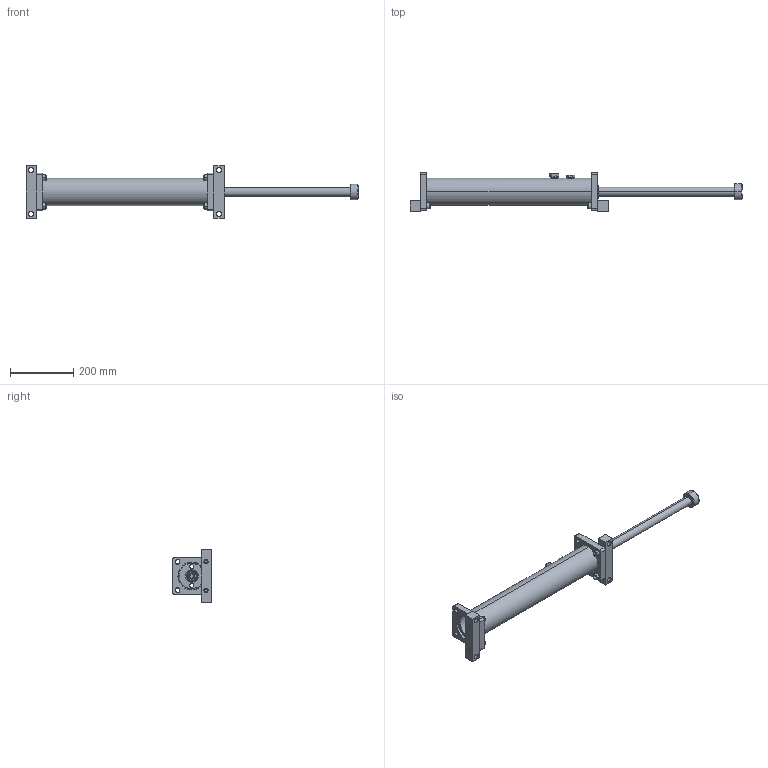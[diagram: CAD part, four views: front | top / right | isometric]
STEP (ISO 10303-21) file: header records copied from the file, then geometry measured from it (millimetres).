
FILE_DESCRIPTION (( 'STEP AP214' ), '1' );
FILE_NAME ('LDD1.5X16.STEP', '2019-01-16T05:37:50', ( 'user' ), ( 'Microsoft' ), 'SwSTEP 2.0', 'SolidWorks 2016', '' );
FILE_SCHEMA (( 'AUTOMOTIVE_DESIGN' ));
Length unit declared in the file: inch
Products named in the file (1): LDD1.5X16
Bounding box: 1051 x 121 x 165 mm (x, y, z)
Surface area: 331485.8 mm2 (no closed solid volume)
Topology: 0 solids, 23 shells, 269 faces, 713 edges, 476 vertices
Faces by surface type: plane 97, cylinder 84, cone 60, bspline 28
Entity records: 13687 total; most frequent: CARTESIAN_POINT 7024, DIRECTION 1406, ORIENTED_EDGE 1299, EDGE_CURVE 713, AXIS2_PLACEMENT_3D 550, VERTEX_POINT 476, EDGE_LOOP 325, CIRCLE 308
